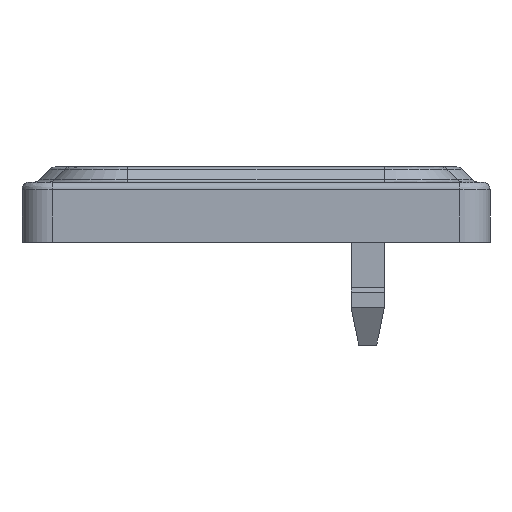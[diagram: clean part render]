
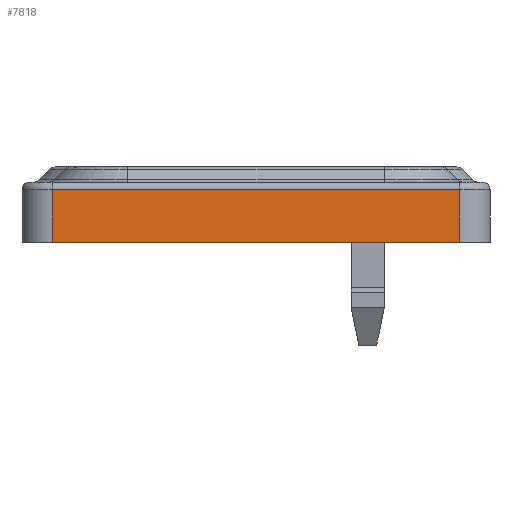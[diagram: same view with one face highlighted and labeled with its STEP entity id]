
A CAD part, left-side view. The second image highlights one B-rep face of the part: STEP entity #7818.
In plain terms, the highlighted planar face has unit normal (-1, 0, 0).
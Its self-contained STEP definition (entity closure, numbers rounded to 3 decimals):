
#86 = ORIENTED_EDGE ( 'NONE', *, *, #3700, .T. ) ;
#531 = DIRECTION ( 'NONE',  ( 0., 0., 1. ) ) ;
#611 = EDGE_CURVE ( 'NONE', #734, #3470, #4619, .T. ) ;
#651 = VECTOR ( 'NONE', #2061, 1000. ) ;
#734 = VERTEX_POINT ( 'NONE', #1999 ) ;
#862 = AXIS2_PLACEMENT_3D ( 'NONE', #6025, #7332, #531 ) ;
#1318 = EDGE_LOOP ( 'NONE', ( #6719, #5079, #86, #6583 ) ) ;
#1769 = FACE_OUTER_BOUND ( 'NONE', #1318, .T. ) ;
#1999 = CARTESIAN_POINT ( 'NONE',  ( -113.5, 13.5, 3.5 ) ) ;
#2061 = DIRECTION ( 'NONE',  ( 0., 1., 0. ) ) ;
#2249 = DIRECTION ( 'NONE',  ( 0., 0., -1. ) ) ;
#2353 = CARTESIAN_POINT ( 'NONE',  ( -113.5, -13.5, 232.107 ) ) ;
#2546 = PLANE ( 'NONE',  #862 ) ;
#2700 = CARTESIAN_POINT ( 'NONE',  ( -113.5, -13.5, 0. ) ) ;
#2884 = CARTESIAN_POINT ( 'NONE',  ( -113.5, -13.5, 0. ) ) ;
#3095 = CARTESIAN_POINT ( 'NONE',  ( -113.5, 13.5, 232.107 ) ) ;
#3458 = VECTOR ( 'NONE', #2249, 1000. ) ;
#3470 = VERTEX_POINT ( 'NONE', #5558 ) ;
#3700 = EDGE_CURVE ( 'NONE', #734, #5529, #3995, .T. ) ;
#3995 = LINE ( 'NONE', #3095, #4732 ) ;
#4619 = LINE ( 'NONE', #6548, #8269 ) ;
#4732 = VECTOR ( 'NONE', #6523, 1000. ) ;
#5079 = ORIENTED_EDGE ( 'NONE', *, *, #611, .F. ) ;
#5296 = LINE ( 'NONE', #2353, #3458 ) ;
#5439 = LINE ( 'NONE', #2700, #651 ) ;
#5529 = VERTEX_POINT ( 'NONE', #7834 ) ;
#5558 = CARTESIAN_POINT ( 'NONE',  ( -113.5, -13.5, 3.5 ) ) ;
#5823 = VERTEX_POINT ( 'NONE', #2884 ) ;
#6025 = CARTESIAN_POINT ( 'NONE',  ( -113.5, -13.5, 232.107 ) ) ;
#6523 = DIRECTION ( 'NONE',  ( 0., 0., -1. ) ) ;
#6548 = CARTESIAN_POINT ( 'NONE',  ( -113.5, 15.5, 3.5 ) ) ;
#6583 = ORIENTED_EDGE ( 'NONE', *, *, #7003, .F. ) ;
#6719 = ORIENTED_EDGE ( 'NONE', *, *, #8096, .F. ) ;
#7003 = EDGE_CURVE ( 'NONE', #5823, #5529, #5439, .T. ) ;
#7332 = DIRECTION ( 'NONE',  ( -1., 0., 0. ) ) ;
#7818 = ADVANCED_FACE ( 'NONE', ( #1769 ), #2546, .T. ) ;
#7834 = CARTESIAN_POINT ( 'NONE',  ( -113.5, 13.5, 0. ) ) ;
#8096 = EDGE_CURVE ( 'NONE', #3470, #5823, #5296, .T. ) ;
#8153 = DIRECTION ( 'NONE',  ( 0., -1., 0. ) ) ;
#8269 = VECTOR ( 'NONE', #8153, 1000. ) ;
